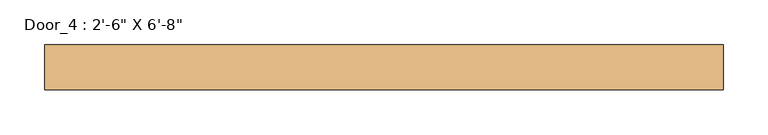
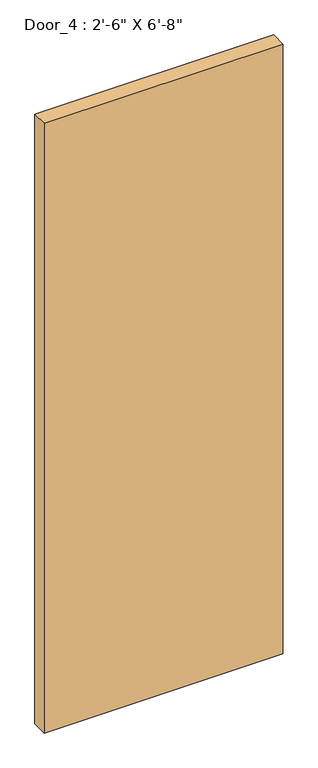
"""IFC4 building model written with IfcOpenShell, lengths in millimetres: door geometry."""

import ifcopenshell
import ifcopenshell.guid

model = None  # the IFC model being written
_history = None  # IfcOwnerHistory: only IFC2X3 demands one
_inside = {}  # id of a spatial element -> (the spatial element, [elements in it])
_under = {}  # id of a project, library or spatial element -> (it, [spatial elements below it])
_declared = {}  # id of a project -> (the project, [libraries it declares])
_typed = {}  # id of a type object -> (the type object, [elements of that type])
_made_of = {}  # id of a material, layer set ... -> (it, [elements and type objects made of it])


def new_model(schema):
    """Start an empty IFC model of exactly this schema.

    Asked for "IFC4X3", IfcOpenShell would pick the latest addendum, in which some entities
    have other attributes; the version numbers below select the first issue.
    IFC2X3 requires an IfcOwnerHistory on every rooted entity: one is made here for all.
    """
    global model, _history
    if schema == "IFC4X3":
        model = ifcopenshell.file(schema_version=(4, 3, 0, 0))
    else:
        model = ifcopenshell.file(schema=schema)
    _inside.clear()
    _under.clear()
    _declared.clear()
    _typed.clear()
    _made_of.clear()
    _history = None
    if model.schema == "IFC2X3":
        org = make("IfcOrganization", Name="unknown")
        user = make(
            "IfcPersonAndOrganization",
            ThePerson=make("IfcPerson", FamilyName="unknown"),
            TheOrganization=org,
        )
        app = make(
            "IfcApplication",
            ApplicationDeveloper=org,
            Version="unknown",
            ApplicationFullName="unknown",
            ApplicationIdentifier="unknown",
        )
        _history = make(
            "IfcOwnerHistory",
            OwningUser=user,
            OwningApplication=app,
            ChangeAction="ADDED",
            CreationDate=0,
        )
    return model


def make(cls, **values):
    """One entity of the class cls with the attributes given. An attribute that is None is left unset."""
    return model.create_entity(
        cls, **{name: value for name, value in values.items() if value is not None}
    )


def rooted(cls, **values):
    """An entity with a GlobalId (a new one), such as an element, a storey or a relation."""
    return make(cls, GlobalId=ifcopenshell.guid.new(), OwnerHistory=_history, **values)


def si_unit(unit_type, name, prefix=None):
    """IfcSIUnit, for example si_unit("LENGTHUNIT", "METRE", prefix="MILLI")."""
    return make("IfcSIUnit", UnitType=unit_type, Prefix=prefix, Name=name)


def assignment(units):
    """IfcUnitAssignment: the units of a project."""
    return None if units is None else make("IfcUnitAssignment", Units=units)


def point(xyz):
    """IfcCartesianPoint."""
    return None if xyz is None else make("IfcCartesianPoint", Coordinates=xyz)


def direction(xyz):
    """IfcDirection."""
    return None if xyz is None else make("IfcDirection", DirectionRatios=xyz)


def frame(location, z_axis=None, x_axis=None):
    """IfcAxis2Placement3D, a coordinate frame: its origin and axes. An axis left out is left unset."""
    return make(
        "IfcAxis2Placement3D",
        Location=point(location),
        Axis=direction(z_axis),
        RefDirection=direction(x_axis),
    )


def origin():
    """The frame at (0, 0, 0) with its axes left unset."""
    return frame((0.0, 0.0, 0.0))


def origin_with_axes():
    """The frame at (0, 0, 0) with the z axis (0, 0, 1) and the x axis (1, 0, 0) written out."""
    return frame((0.0, 0.0, 0.0), z_axis=(0.0, 0.0, 1.0), x_axis=(1.0, 0.0, 0.0))


def place(relative_to, where):
    """IfcLocalPlacement: puts the frame where relative to a parent placement (None: the world)."""
    return make(
        "IfcLocalPlacement", PlacementRelTo=relative_to, RelativePlacement=where
    )


def context(
    kind, dimensions, precision=None, world=None, true_north=None, identifier=None
):
    """IfcGeometricRepresentationContext, for example the 3D "Model" context."""
    return make(
        "IfcGeometricRepresentationContext",
        ContextIdentifier=identifier,
        ContextType=kind,
        CoordinateSpaceDimension=dimensions,
        Precision=precision,
        WorldCoordinateSystem=world,
        TrueNorth=true_north,
    )


def project(units=None, contexts=None):
    """IfcProject with its units and contexts."""
    return rooted(
        "IfcProject",
        Name="project",
        RepresentationContexts=contexts,
        UnitsInContext=assignment(units),
    )


def spatial(cls, under=None, at=None, **own):
    """A site, building, storey or space (cls), placed at a placement, below another one or the project."""
    s = rooted(cls, ObjectPlacement=at, **own)
    if under is not None:
        _under.setdefault(under.id(), (under, []))[1].append(s)
    return s


def polyline(points):
    """IfcPolyline through the points."""
    return make("IfcPolyline", Points=[point(p) for p in points])


def outline(outer, holes=None, kind="AREA"):
    """IfcArbitraryClosedProfileDef: a profile drawn as a closed curve; with holes, ...WithVoids."""
    if holes is None:
        return make("IfcArbitraryClosedProfileDef", ProfileType=kind, OuterCurve=outer)
    return make(
        "IfcArbitraryProfileDefWithVoids",
        ProfileType=kind,
        OuterCurve=outer,
        InnerCurves=holes,
    )


def extrude(swept, where, along, depth):
    """IfcExtrudedAreaSolid: the profile swept, set in the frame where, extruded along a direction by depth."""
    return make(
        "IfcExtrudedAreaSolid",
        SweptArea=swept,
        Position=where,
        ExtrudedDirection=direction(along),
        Depth=depth,
    )


def shape(context_of_items, identifier, shape_type, items):
    """IfcShapeRepresentation: the items that make up one representation, for example the "Body"."""
    return make(
        "IfcShapeRepresentation",
        ContextOfItems=context_of_items,
        RepresentationIdentifier=identifier,
        RepresentationType=shape_type,
        Items=items,
    )


def source(mapping_origin, context_of_items, identifier, shape_type, items):
    """IfcRepresentationMap: a shape defined once, which mapped items show again and again."""
    return make(
        "IfcRepresentationMap",
        MappingOrigin=mapping_origin,
        MappedRepresentation=shape(context_of_items, identifier, shape_type, items),
    )


def transform(
    local_origin,
    x_axis=None,
    y_axis=None,
    z_axis=None,
    scale=None,
    scale2=None,
    scale3=None,
    uniform=True,
):
    """IfcCartesianTransformationOperator3D, or its non-uniform kind. x_axis, y_axis, z_axis: its Axis1, 2, 3."""
    if uniform:
        return make(
            "IfcCartesianTransformationOperator3D",
            Axis1=direction(x_axis),
            Axis2=direction(y_axis),
            LocalOrigin=point(local_origin),
            Scale=scale,
            Axis3=direction(z_axis),
        )
    return make(
        "IfcCartesianTransformationOperator3DnonUniform",
        Axis1=direction(x_axis),
        Axis2=direction(y_axis),
        LocalOrigin=point(local_origin),
        Scale=scale,
        Axis3=direction(z_axis),
        Scale2=scale2,
        Scale3=scale3,
    )


def mapped(mapping_source, mapping_target):
    """IfcMappedItem: shows the shape of a source again, moved by a transform."""
    return make(
        "IfcMappedItem", MappingSource=mapping_source, MappingTarget=mapping_target
    )


def made_of(thing, what):
    """Note that an element or type object is made of a material, layer set ...; save() writes the relation."""
    if what is not None:
        _made_of.setdefault(what.id(), (what, []))[1].append(thing)
    return thing


def element(
    cls,
    number,
    at=None,
    inside=None,
    cuts=None,
    type_object=None,
    material=None,
    context=None,
    identifier="Body",
    shape_type=None,
    held_by="IfcProductDefinitionShape",
    body=None,
    shapes=None,
    **own,
):
    """One element of the class cls, such as IfcWall. Its Tag is "e" and its number.

    at: its placement. inside: the storey or other place that contains it. cuts: it is an
    opening in that element (IfcRelVoidsElement). A single representation is given by context,
    identifier, shape_type and body (its items); several are given by shapes. held_by: the class
    of the entity that holds the representations. save() writes the other relations.
    """
    e = rooted(cls, Tag="e%d" % number, ObjectPlacement=at, **own)
    if body is not None:
        shapes = [shape(context, identifier, shape_type, body)]
    if shapes is not None:
        e.Representation = make(held_by, Representations=shapes)
    if inside is not None:
        _inside.setdefault(inside.id(), (inside, []))[1].append(e)
    if cuts is not None:
        rooted(
            "IfcRelVoidsElement", RelatingBuildingElement=cuts, RelatedOpeningElement=e
        )
    if type_object is not None:
        _typed.setdefault(type_object.id(), (type_object, []))[1].append(e)
    return made_of(e, material)


def aggregate(whole, parts):
    """IfcRelAggregates: a whole, such as a stair, and the parts it consists of."""
    return rooted("IfcRelAggregates", RelatingObject=whole, RelatedObjects=parts)


def save(model, path):
    """Write the relations noted so far, then the file.

    IfcRelAggregates (storeys below a building ...), IfcRelContainedInSpatialStructure (elements
    in a storey), IfcRelDefinesByType, IfcRelAssociatesMaterial and IfcRelDeclares: one each for
    every whole, place, type object, material and project.
    """
    for whole, parts in _under.values():
        aggregate(whole, parts)
    for where, things in _inside.values():
        rooted(
            "IfcRelContainedInSpatialStructure",
            RelatedElements=things,
            RelatingStructure=where,
        )
    for kind, things in _typed.values():
        rooted("IfcRelDefinesByType", RelatedObjects=things, RelatingType=kind)
    for what, things in _made_of.values():
        rooted("IfcRelAssociatesMaterial", RelatedObjects=things, RelatingMaterial=what)
    for by, libraries in _declared.values():
        rooted("IfcRelDeclares", RelatingContext=by, RelatedDefinitions=libraries)
    model.write(path)


def door_1fb80474(model_context):
    return source(origin(), model_context, "Body", "SweptSolid", [
        extrude(outline(polyline([(381.0, 9.525), (381.0, -41.275), (-381.0, -41.275), (-381.0, 9.525), (381.0, 9.525)])), origin_with_axes(), (0.0, 0.0, 1.0), 2057.4),
    ])


if __name__ == "__main__":
    model = new_model("IFC4")
    model_context = context("Model", 3, world=origin())
    ifc_project = project(units=[si_unit("LENGTHUNIT", "METRE", prefix="MILLI")], contexts=[model_context])
    site = spatial("IfcSite", under=ifc_project)
    building = spatial("IfcBuilding", under=site)
    placement = place(None, origin())
    door_shape = door_1fb80474(model_context)
    element("IfcDoor", 1, ObjectType="Door_4 : 2'-6\" X 6'-8\"", at=placement, inside=building, context=model_context, shape_type="MappedRepresentation", body=[
        mapped(door_shape, transform((0.0, 0.0, 0.0), x_axis=(1.0, 0.0, 0.0), y_axis=(0.0, 1.0, 0.0), z_axis=(0.0, 0.0, 1.0))),
    ])
    save(model, "model.ifc")
